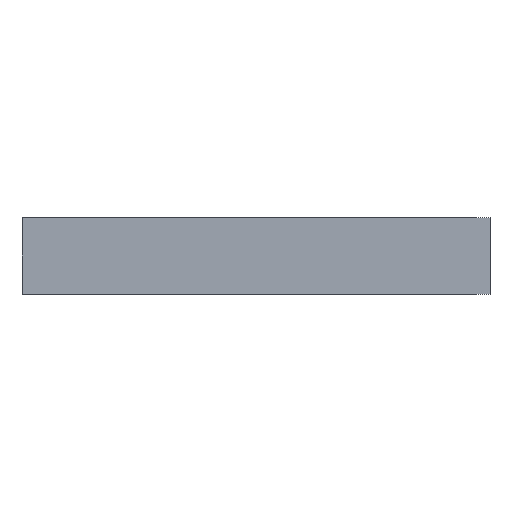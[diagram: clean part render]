
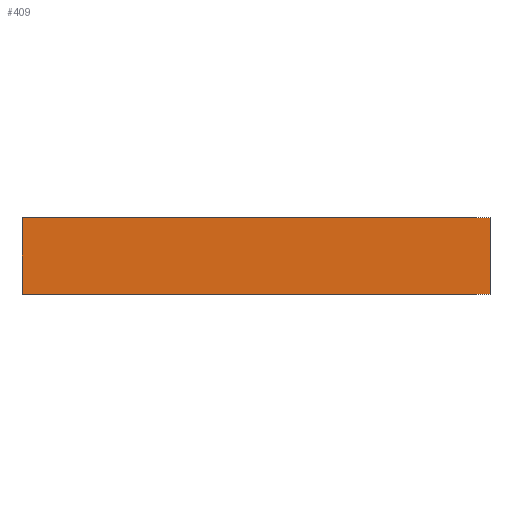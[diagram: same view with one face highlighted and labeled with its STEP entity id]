
A CAD part, front view. The second image highlights one B-rep face of the part: STEP entity #409.
In plain terms, the highlighted planar face has unit normal (0, -1, 0).
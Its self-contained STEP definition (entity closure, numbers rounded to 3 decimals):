
#8 = EDGE_CURVE ( 'NONE', #638, #663, #264, .T. ) ;
#20 = EDGE_CURVE ( 'NONE', #638, #694, #241, .T. ) ;
#22 = AXIS2_PLACEMENT_3D ( 'NONE', #489, #483, #482 ) ;
#41 = EDGE_CURVE ( 'NONE', #694, #687, #207, .T. ) ;
#66 = EDGE_CURVE ( 'NONE', #663, #687, #174, .T. ) ;
#125 = FACE_OUTER_BOUND ( 'NONE', #280, .T. ) ;
#173 = VECTOR ( 'NONE', #606, 1000. ) ;
#174 = LINE ( 'NONE', #607, #173 ) ;
#206 = VECTOR ( 'NONE', #653, 1000. ) ;
#207 = LINE ( 'NONE', #655, #206 ) ;
#240 = VECTOR ( 'NONE', #705, 1000. ) ;
#241 = LINE ( 'NONE', #706, #240 ) ;
#259 = VECTOR ( 'NONE', #538, 1000. ) ;
#264 = LINE ( 'NONE', #555, #259 ) ;
#280 = EDGE_LOOP ( 'NONE', ( #343, #344, #345, #346 ) ) ;
#343 = ORIENTED_EDGE ( 'NONE', *, *, #66, .T. ) ;
#344 = ORIENTED_EDGE ( 'NONE', *, *, #41, .F. ) ;
#345 = ORIENTED_EDGE ( 'NONE', *, *, #20, .F. ) ;
#346 = ORIENTED_EDGE ( 'NONE', *, *, #8, .T. ) ;
#409 = ADVANCED_FACE ( 'NONE', ( #125 ), #493, .F. ) ;
#439 = CARTESIAN_POINT ( 'NONE',  ( 200., 0., 65. ) ) ;
#446 = CARTESIAN_POINT ( 'NONE',  ( 200., 0., 0. ) ) ;
#454 = CARTESIAN_POINT ( 'NONE',  ( -200., 0., 0. ) ) ;
#462 = CARTESIAN_POINT ( 'NONE',  ( -200., 0., 65. ) ) ;
#482 = DIRECTION ( 'NONE',  ( -1., 0., 0. ) ) ;
#483 = DIRECTION ( 'NONE',  ( 0., 1., 0. ) ) ;
#489 = CARTESIAN_POINT ( 'NONE',  ( -200., 0., 65. ) ) ;
#493 = PLANE ( 'NONE',  #22 ) ;
#538 = DIRECTION ( 'NONE',  ( 0., 0., -1. ) ) ;
#555 = CARTESIAN_POINT ( 'NONE',  ( -200., 0., 65. ) ) ;
#606 = DIRECTION ( 'NONE',  ( 1., 0., 0. ) ) ;
#607 = CARTESIAN_POINT ( 'NONE',  ( -200., 0., 0. ) ) ;
#638 = VERTEX_POINT ( 'NONE', #462 ) ;
#653 = DIRECTION ( 'NONE',  ( 0., 0., -1. ) ) ;
#655 = CARTESIAN_POINT ( 'NONE',  ( 200., 0., 65. ) ) ;
#663 = VERTEX_POINT ( 'NONE', #454 ) ;
#687 = VERTEX_POINT ( 'NONE', #446 ) ;
#694 = VERTEX_POINT ( 'NONE', #439 ) ;
#705 = DIRECTION ( 'NONE',  ( 1., 0., 0. ) ) ;
#706 = CARTESIAN_POINT ( 'NONE',  ( -200., 0., 65. ) ) ;
